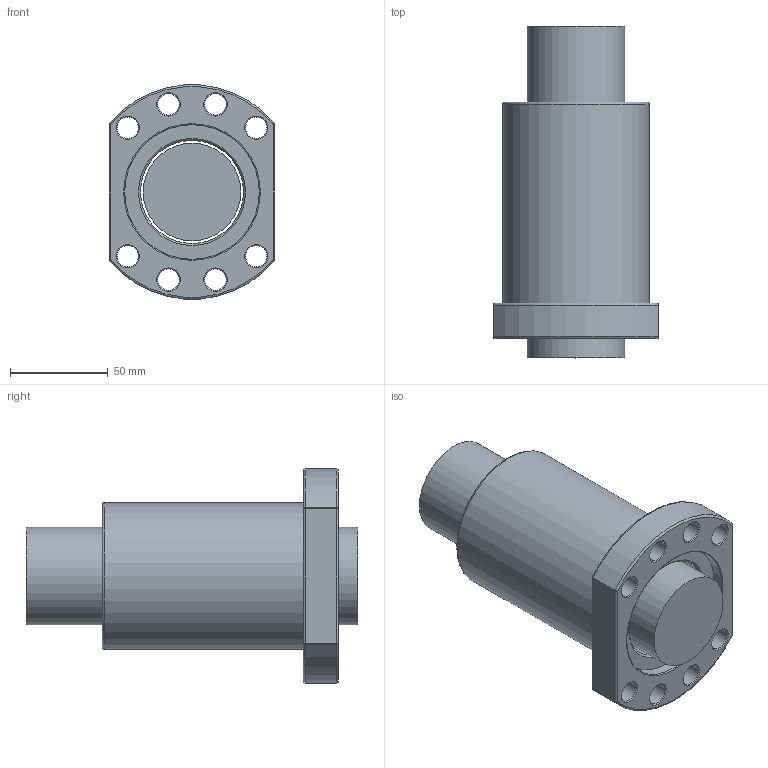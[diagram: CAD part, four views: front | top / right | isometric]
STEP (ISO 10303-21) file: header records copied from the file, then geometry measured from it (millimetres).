
FILE_DESCRIPTION(/* description */ (''),/* implementation_level */ '2;1');
FILE_NAME(/* name */ '5020.prt.step',/* time_stamp */ '2008-12-05T09:30:48+08:00',/* author */ (''),/* organization */ (''),/* preprocessor_version */ 'ST-DEVELOPER v11',/* originating_system */ 'SIEMENS UGS NX 6.0',/* authorisation */ '');
FILE_SCHEMA (('AUTOMOTIVE_DESIGN { 1 0 10303 214 1 1 1 1 }'));
Length unit declared in the file: millimetre
Products named in the file (1): 5020
Bounding box: 85 x 170 x 109.65 mm (x, y, z)
Volume: 640387.5 mm3; surface area: 96411.8 mm2
Topology: 2 solids, 2 shells, 65 faces, 133 edges, 75 vertices
Faces by surface type: cylinder 23, cone 18, plane 9, sphere 8, torus 7
Full cylindrical faces by diameter (mm): 11 x8, 49.95 x1, 52.8 x1, 69 x2, 75 x1
Entity records: 1558 total; most frequent: DIRECTION 306, CARTESIAN_POINT 232, ORIENTED_EDGE 190, AXIS2_PLACEMENT_3D 145, EDGE_LOOP 120, EDGE_CURVE 95, FACE_BOUND 94, CIRCLE 79
